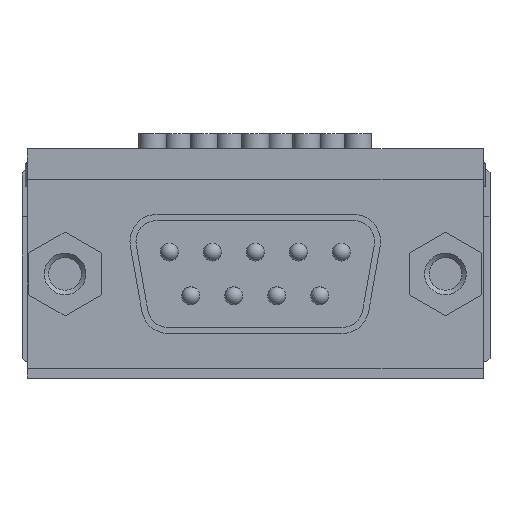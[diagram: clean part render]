
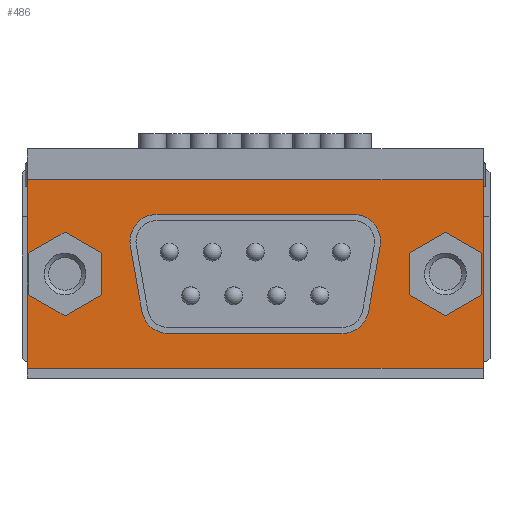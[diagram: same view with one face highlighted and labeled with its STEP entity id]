
A CAD part, front view. The second image highlights one B-rep face of the part: STEP entity #486.
In plain terms, the highlighted planar face has unit normal (0, -1, 0).
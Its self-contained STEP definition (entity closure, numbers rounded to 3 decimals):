
#486=ADVANCED_FACE('',(#2732,#2733,#1211,#2734),#958,.T.);
#958=PLANE('',#7556);
#1211=FACE_OUTER_BOUND('',#2959,.T.);
#1619=LINE('',#10443,#2157);
#1620=LINE('',#10446,#2158);
#1621=LINE('',#10448,#2159);
#1622=LINE('',#10450,#2160);
#1623=LINE('',#10452,#2161);
#1624=LINE('',#10454,#2162);
#1625=LINE('',#10455,#2163);
#1626=LINE('',#10460,#2164);
#1627=LINE('',#10464,#2165);
#1628=LINE('',#10468,#2166);
#1629=LINE('',#10471,#2167);
#1630=LINE('',#10474,#2168);
#1631=LINE('',#10476,#2169);
#1632=LINE('',#10478,#2170);
#1633=LINE('',#10479,#2171);
#1634=LINE('',#10482,#2172);
#1635=LINE('',#10484,#2173);
#1636=LINE('',#10486,#2174);
#1637=LINE('',#10488,#2175);
#1638=LINE('',#10490,#2176);
#2157=VECTOR('',#8343,1.);
#2158=VECTOR('',#8344,1.);
#2159=VECTOR('',#8345,1.);
#2160=VECTOR('',#8346,1.);
#2161=VECTOR('',#8347,1.);
#2162=VECTOR('',#8348,1.);
#2163=VECTOR('',#8349,1.);
#2164=VECTOR('',#8352,1.);
#2165=VECTOR('',#8355,1.);
#2166=VECTOR('',#8358,1.);
#2167=VECTOR('',#8361,1.);
#2168=VECTOR('',#8362,1.);
#2169=VECTOR('',#8363,1.);
#2170=VECTOR('',#8364,1.);
#2171=VECTOR('',#8365,1.);
#2172=VECTOR('',#8366,1.);
#2173=VECTOR('',#8367,1.);
#2174=VECTOR('',#8368,1.);
#2175=VECTOR('',#8369,1.);
#2176=VECTOR('',#8370,1.);
#2732=FACE_BOUND('',#2957,.T.);
#2733=FACE_BOUND('',#2958,.T.);
#2734=FACE_BOUND('',#2960,.T.);
#2957=EDGE_LOOP('',(#3591,#3592,#3593,#3594,#3595,#3596));
#2958=EDGE_LOOP('',(#3597,#3598,#3599,#3600,#3601,#3602,#3603,#3604));
#2959=EDGE_LOOP('',(#3605,#3606,#3607,#3608));
#2960=EDGE_LOOP('',(#3609,#3610,#3611,#3612,#3613,#3614));
#3591=ORIENTED_EDGE('',*,*,#6276,.F.);
#3592=ORIENTED_EDGE('',*,*,#6277,.F.);
#3593=ORIENTED_EDGE('',*,*,#6278,.F.);
#3594=ORIENTED_EDGE('',*,*,#6279,.F.);
#3595=ORIENTED_EDGE('',*,*,#6280,.F.);
#3596=ORIENTED_EDGE('',*,*,#6281,.F.);
#3597=ORIENTED_EDGE('',*,*,#6282,.F.);
#3598=ORIENTED_EDGE('',*,*,#6283,.T.);
#3599=ORIENTED_EDGE('',*,*,#6284,.F.);
#3600=ORIENTED_EDGE('',*,*,#6285,.F.);
#3601=ORIENTED_EDGE('',*,*,#6286,.F.);
#3602=ORIENTED_EDGE('',*,*,#6287,.T.);
#3603=ORIENTED_EDGE('',*,*,#6288,.F.);
#3604=ORIENTED_EDGE('',*,*,#6289,.T.);
#3605=ORIENTED_EDGE('',*,*,#6290,.T.);
#3606=ORIENTED_EDGE('',*,*,#6291,.T.);
#3607=ORIENTED_EDGE('',*,*,#6292,.T.);
#3608=ORIENTED_EDGE('',*,*,#6293,.T.);
#3609=ORIENTED_EDGE('',*,*,#6294,.T.);
#3610=ORIENTED_EDGE('',*,*,#6295,.T.);
#3611=ORIENTED_EDGE('',*,*,#6296,.T.);
#3612=ORIENTED_EDGE('',*,*,#6297,.T.);
#3613=ORIENTED_EDGE('',*,*,#6298,.T.);
#3614=ORIENTED_EDGE('',*,*,#6299,.T.);
#5575=VERTEX_POINT('',#10444);
#5576=VERTEX_POINT('',#10445);
#5577=VERTEX_POINT('',#10447);
#5578=VERTEX_POINT('',#10449);
#5579=VERTEX_POINT('',#10451);
#5580=VERTEX_POINT('',#10453);
#5581=VERTEX_POINT('',#10456);
#5582=VERTEX_POINT('',#10457);
#5583=VERTEX_POINT('',#10459);
#5584=VERTEX_POINT('',#10461);
#5585=VERTEX_POINT('',#10463);
#5586=VERTEX_POINT('',#10465);
#5587=VERTEX_POINT('',#10467);
#5588=VERTEX_POINT('',#10469);
#5589=VERTEX_POINT('',#10472);
#5590=VERTEX_POINT('',#10473);
#5591=VERTEX_POINT('',#10475);
#5592=VERTEX_POINT('',#10477);
#5593=VERTEX_POINT('',#10480);
#5594=VERTEX_POINT('',#10481);
#5595=VERTEX_POINT('',#10483);
#5596=VERTEX_POINT('',#10485);
#5597=VERTEX_POINT('',#10487);
#5598=VERTEX_POINT('',#10489);
#6276=EDGE_CURVE('',#5575,#5576,#1619,.T.);
#6277=EDGE_CURVE('',#5577,#5575,#1620,.T.);
#6278=EDGE_CURVE('',#5578,#5577,#1621,.T.);
#6279=EDGE_CURVE('',#5579,#5578,#1622,.T.);
#6280=EDGE_CURVE('',#5580,#5579,#1623,.T.);
#6281=EDGE_CURVE('',#5576,#5580,#1624,.T.);
#6282=EDGE_CURVE('',#5581,#5582,#1625,.T.);
#6283=EDGE_CURVE('',#5581,#5583,#7264,.T.);
#6284=EDGE_CURVE('',#5584,#5583,#1626,.T.);
#6285=EDGE_CURVE('',#5585,#5584,#7265,.T.);
#6286=EDGE_CURVE('',#5586,#5585,#1627,.T.);
#6287=EDGE_CURVE('',#5586,#5587,#7266,.T.);
#6288=EDGE_CURVE('',#5588,#5587,#1628,.T.);
#6289=EDGE_CURVE('',#5588,#5582,#7267,.T.);
#6290=EDGE_CURVE('',#5589,#5590,#1629,.T.);
#6291=EDGE_CURVE('',#5590,#5591,#1630,.T.);
#6292=EDGE_CURVE('',#5591,#5592,#1631,.T.);
#6293=EDGE_CURVE('',#5592,#5589,#1632,.T.);
#6294=EDGE_CURVE('',#5593,#5594,#1633,.T.);
#6295=EDGE_CURVE('',#5594,#5595,#1634,.T.);
#6296=EDGE_CURVE('',#5595,#5596,#1635,.T.);
#6297=EDGE_CURVE('',#5596,#5597,#1636,.T.);
#6298=EDGE_CURVE('',#5597,#5598,#1637,.T.);
#6299=EDGE_CURVE('',#5598,#5593,#1638,.T.);
#7264=CIRCLE('',#7552,1.8);
#7265=CIRCLE('',#7553,1.8);
#7266=CIRCLE('',#7554,1.8);
#7267=CIRCLE('',#7555,1.8);
#7552=AXIS2_PLACEMENT_3D('',#10458,#8350,#8351);
#7553=AXIS2_PLACEMENT_3D('',#10462,#8353,#8354);
#7554=AXIS2_PLACEMENT_3D('',#10466,#8356,#8357);
#7555=AXIS2_PLACEMENT_3D('',#10470,#8359,#8360);
#7556=AXIS2_PLACEMENT_3D('',#10491,#8371,#8372);
#8343=DIRECTION('',(0.,0.,-1.));
#8344=DIRECTION('',(-0.866,0.,-0.5));
#8345=DIRECTION('',(-0.866,0.,0.5));
#8346=DIRECTION('',(0.,0.,1.));
#8347=DIRECTION('',(0.866,0.,0.5));
#8348=DIRECTION('',(0.866,0.,-0.5));
#8349=DIRECTION('',(0.174,0.,-0.985));
#8350=DIRECTION('',(0.,1.,0.));
#8351=DIRECTION('',(0.,0.,-1.));
#8352=DIRECTION('',(-1.,0.,0.));
#8353=DIRECTION('',(0.,-1.,0.));
#8354=DIRECTION('',(0.,0.,-1.));
#8355=DIRECTION('',(0.174,0.,0.985));
#8356=DIRECTION('',(0.,1.,0.));
#8357=DIRECTION('',(0.,0.,-1.));
#8358=DIRECTION('',(1.,0.,0.));
#8359=DIRECTION('',(0.,1.,0.));
#8360=DIRECTION('',(0.,0.,-1.));
#8361=DIRECTION('',(-1.,0.,0.));
#8362=DIRECTION('',(0.,0.,-1.));
#8363=DIRECTION('',(1.,0.,0.));
#8364=DIRECTION('',(0.,0.,1.));
#8365=DIRECTION('',(0.866,0.,-0.5));
#8366=DIRECTION('',(0.,0.,-1.));
#8367=DIRECTION('',(-0.866,0.,-0.5));
#8368=DIRECTION('',(-0.866,0.,0.5));
#8369=DIRECTION('',(0.,0.,1.));
#8370=DIRECTION('',(0.866,0.,0.5));
#8371=DIRECTION('',(0.,-1.,0.));
#8372=DIRECTION('',(0.,0.,1.));
#10443=CARTESIAN_POINT('',(10.15,-13.2,-12.061));
#10444=CARTESIAN_POINT('',(10.15,-13.2,-7.904));
#10445=CARTESIAN_POINT('',(10.15,-13.2,-10.676));
#10446=CARTESIAN_POINT('',(12.55,-13.2,-6.519));
#10447=CARTESIAN_POINT('',(12.55,-13.2,-6.519));
#10448=CARTESIAN_POINT('',(14.95,-13.2,-7.904));
#10449=CARTESIAN_POINT('',(14.95,-13.2,-7.904));
#10450=CARTESIAN_POINT('',(14.95,-13.2,-12.061));
#10451=CARTESIAN_POINT('',(14.95,-13.2,-10.676));
#10452=CARTESIAN_POINT('',(12.55,-13.2,-12.061));
#10453=CARTESIAN_POINT('',(12.55,-13.2,-12.061));
#10454=CARTESIAN_POINT('',(10.15,-13.2,-10.676));
#10455=CARTESIAN_POINT('',(-7.032,-13.2,-14.773));
#10456=CARTESIAN_POINT('',(-8.323,-13.2,-7.453));
#10457=CARTESIAN_POINT('',(-7.564,-13.2,-11.753));
#10458=CARTESIAN_POINT('',(-6.55,-13.2,-7.14));
#10459=CARTESIAN_POINT('',(-6.55,-13.2,-5.34));
#10460=CARTESIAN_POINT('',(-18.47,-13.2,-5.34));
#10461=CARTESIAN_POINT('',(6.45,-13.2,-5.34));
#10462=CARTESIAN_POINT('',(6.45,-13.2,-7.14));
#10463=CARTESIAN_POINT('',(8.223,-13.2,-7.453));
#10464=CARTESIAN_POINT('',(5.821,-13.2,-21.073));
#10465=CARTESIAN_POINT('',(7.464,-13.2,-11.753));
#10466=CARTESIAN_POINT('',(5.692,-13.2,-11.44));
#10467=CARTESIAN_POINT('',(5.692,-13.2,-13.24));
#10468=CARTESIAN_POINT('',(-18.47,-13.2,-13.24));
#10469=CARTESIAN_POINT('',(-5.792,-13.2,-13.24));
#10470=CARTESIAN_POINT('',(-5.792,-13.2,-11.44));
#10471=CARTESIAN_POINT('',(15.05,-13.2,-3.04));
#10472=CARTESIAN_POINT('',(15.05,-13.2,-3.04));
#10473=CARTESIAN_POINT('',(-15.15,-13.2,-3.04));
#10474=CARTESIAN_POINT('',(-15.15,-13.2,-3.04));
#10475=CARTESIAN_POINT('',(-15.15,-13.2,-15.54));
#10476=CARTESIAN_POINT('',(-15.15,-13.2,-15.54));
#10477=CARTESIAN_POINT('',(15.05,-13.2,-15.54));
#10478=CARTESIAN_POINT('',(15.05,-13.2,-15.54));
#10479=CARTESIAN_POINT('',(-12.65,-13.2,-6.519));
#10480=CARTESIAN_POINT('',(-12.65,-13.2,-6.519));
#10481=CARTESIAN_POINT('',(-10.25,-13.2,-7.904));
#10482=CARTESIAN_POINT('',(-10.25,-13.2,-12.061));
#10483=CARTESIAN_POINT('',(-10.25,-13.2,-10.676));
#10484=CARTESIAN_POINT('',(-10.25,-13.2,-10.676));
#10485=CARTESIAN_POINT('',(-12.65,-13.2,-12.061));
#10486=CARTESIAN_POINT('',(-12.65,-13.2,-12.061));
#10487=CARTESIAN_POINT('',(-15.05,-13.2,-10.676));
#10488=CARTESIAN_POINT('',(-15.05,-13.2,-12.061));
#10489=CARTESIAN_POINT('',(-15.05,-13.2,-7.904));
#10490=CARTESIAN_POINT('',(-15.05,-13.2,-7.904));
#10491=CARTESIAN_POINT('',(15.05,-13.2,-3.04));
